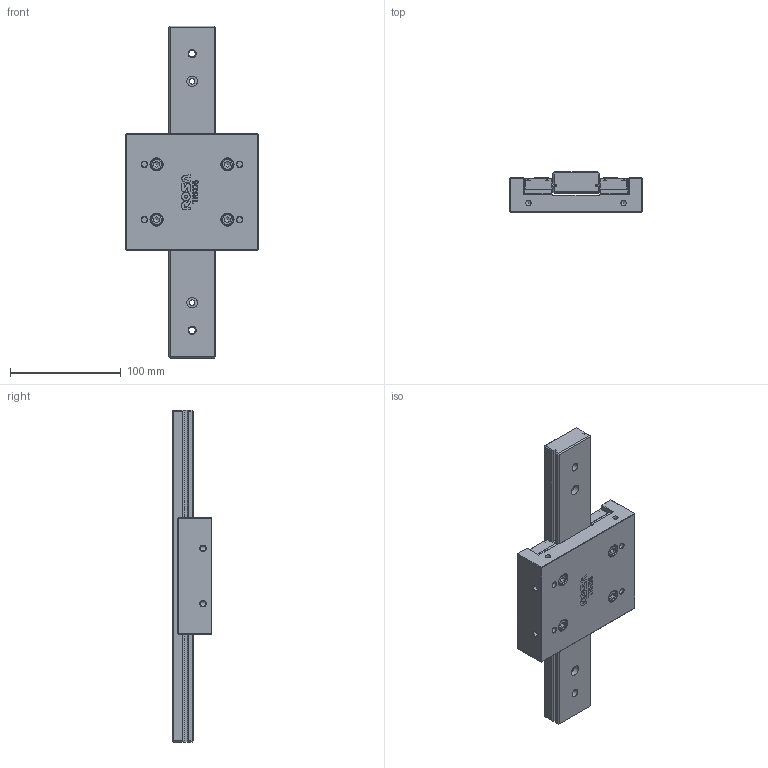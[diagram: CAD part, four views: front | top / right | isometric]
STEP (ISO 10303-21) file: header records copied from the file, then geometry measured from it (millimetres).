
FILE_DESCRIPTION(/* description */ ('TAVOLA TRKD06 L= 300 mm'),/* implementation_level */ '2;1');
FILE_NAME(/* name */ 'TRKD060300-00.stp',/* time_stamp */ '2024-01-25T10:24:54+01:00',/* author */ ('Rosa Sistemi'),/* organization */ (''),/* preprocessor_version */ 'ST-DEVELOPER v20',/* originating_system */ 'Autodesk Inventor 2024',/* authorisation */ '');
FILE_SCHEMA (('AUTOMOTIVE_DESIGN { 1 0 10303 214 3 1 1 }'));
Length unit declared in the file: millimetre
Products named in the file (2): TRKD060300-00; TRKD060300-00_1
Assembly tree (1 placements, depth 2):
  TRKD060300-00
    TRKD060300-00_1
Bounding box: 120 x 36 x 300 mm (x, y, z)
Volume: 523599.2 mm3; surface area: 106534.9 mm2
Topology: 13 solids, 13 shells, 672 faces, 1735 edges, 1115 vertices
Faces by surface type: plane 415, cone 87, cylinder 84, bspline 36, sphere 26, torus 24
Full cylindrical faces by diameter (mm): 2 x2, 2.795 x1, 4.134 x4, 4.917 x14, 6 x15, 7 x3, 7.687 x1, 9.5 x3, 9.9 x4, 10 x4, 11 x4
Entity records: 21384 total; most frequent: CARTESIAN_POINT 4527, ORIENTED_EDGE 3342, DIRECTION 3232, EDGE_CURVE 1671, VERTEX_POINT 1115, AXIS2_PLACEMENT_3D 1104, LINE 1024, VECTOR 1024
